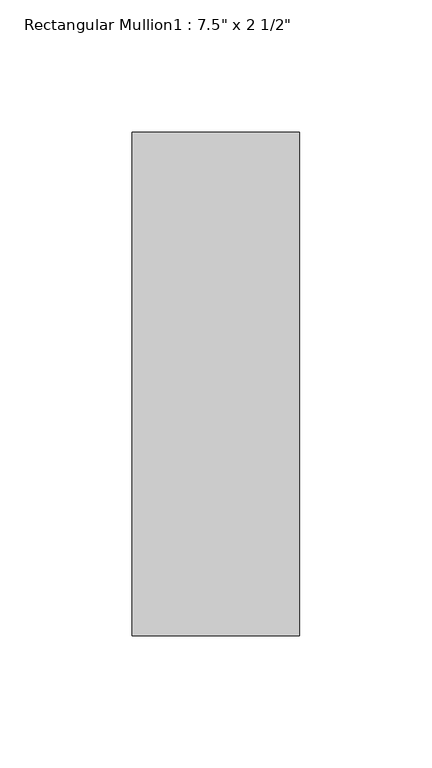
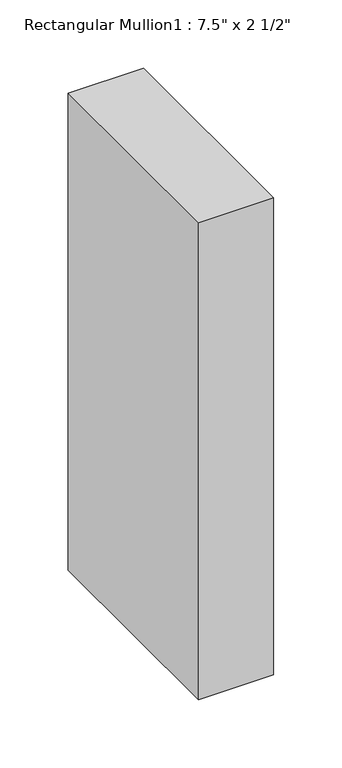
"""IFC4 building model written with IfcOpenShell, lengths in millimetres: member geometry."""

from ifc_helpers import new_model, si_unit, frame, origin, place, context, project, spatial, polyline, outline, extrude, source, transform, mapped, element, save


def member_3dce4c61(model_context):
    return source(origin(), model_context, "Body", "SweptSolid", [
        extrude(outline(polyline([(-63.5, -165.1), (-63.5, 25.4), (0.0, 25.4), (0.0, -165.1), (-63.5, -165.1)])), frame((0.0, 0.0, -425.45), z_axis=(0.0, 0.0, 1.0), x_axis=(1.0, 0.0, 0.0)), (0.0, 0.0, 1.0), 425.45),
    ])


if __name__ == "__main__":
    model = new_model("IFC4")
    model_context = context("Model", 3, world=origin())
    ifc_project = project(units=[si_unit("LENGTHUNIT", "METRE", prefix="MILLI")], contexts=[model_context])
    site = spatial("IfcSite", under=ifc_project)
    building = spatial("IfcBuilding", under=site)
    placement = place(None, origin())
    member_shape = member_3dce4c61(model_context)
    element("IfcMember", 1, ObjectType="Rectangular Mullion1 : 7.5\" x 2 1/2\"", at=placement, inside=building, context=model_context, shape_type="MappedRepresentation", body=[
        mapped(member_shape, transform((0.0, 0.0, 0.0), x_axis=(1.0, 0.0, 0.0), y_axis=(0.0, 1.0, 0.0), z_axis=(0.0, 0.0, 1.0))),
    ])
    save(model, "model.ifc")
